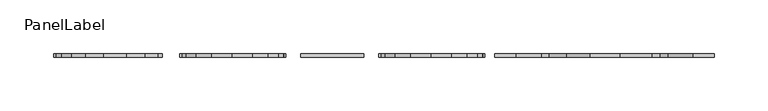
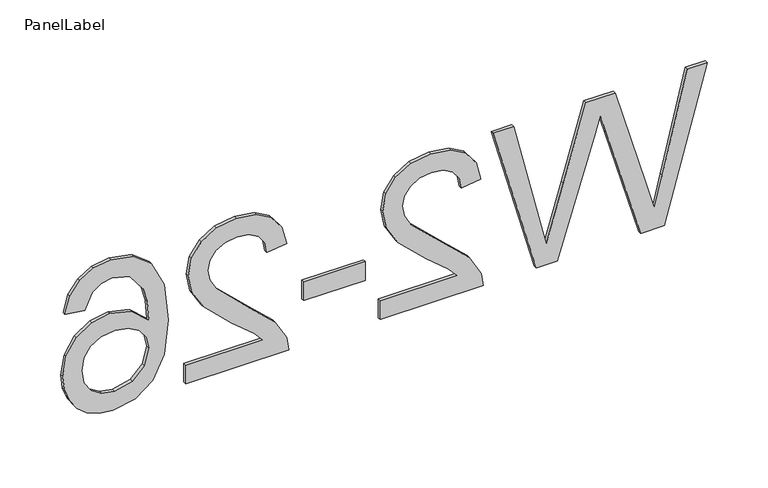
"""IFC4 building model written with IfcOpenShell, lengths in millimetres: fastener geometry, PanelLabel : Miranda."""

from ifc_helpers import new_model, si_unit, frame, origin, place, context, project, spatial, polyline, outline, extrude, source, transform, mapped, element, save


def panellabel_652a8146(model_context):
    return source(origin(), model_context, "Body", "SweptSolid", [
        extrude(outline(polyline([(1310.9113766, 268.5683654), (1460.9667612, 309.4892308), (1460.9667612, 290.1461538), (1362.3463766, 266.4069231), (1331.9030112, 259.08), (1358.8294535, 251.2401923), (1460.9667612, 221.4928846), (1460.9667612, 193.6139423), (1386.9282035, 171.9995192), (1331.9030112, 155.9169231), (1361.4671458, 148.8098077), (1460.9667612, 124.8507692), (1460.9667612, 105.5076923), (1310.9113766, 146.4651923), (1310.9113766, 166.5043269), (1426.6767612, 202.4795192), (1442.8326266, 207.4984615), (1423.3796458, 213.1401923), (1310.9113766, 245.9281731), (1310.9113766, 268.5683654)])), frame((0.0, 100.80625, 0.0), z_axis=(0.0, 1.0, 0.0), x_axis=(0.0, 0.0, 1.0)), (0.0, 0.0, 1.0), 3.175),
        extrude(outline(polyline([(1329.6682997, -2.3446154), (1310.9113766, -2.3446154), (1310.9113766, 96.1292308), (1323.8433958, 94.1143269), (1343.7543093, 82.7209615), (1365.4969535, 59.2381731), (1396.7462804, 26.8531731), (1407.5168573, 20.7809856), (1417.9943573, 18.7569231), (1427.3865569, 20.6665024), (1435.1943093, 26.3952404), (1440.4559559, 35.2012861), (1442.2098381, 46.3427885), (1440.4971698, 58.0429688), (1435.359165, 67.1329327), (1427.1988045, 72.9990505), (1416.4190689, 75.0276923), (1418.7636843, 93.7846154), (1436.9069775, 89.2373438), (1450.1595497, 79.4055288), (1458.2649583, 64.8020553), (1460.9667612, 45.9398077), (1457.9627227, 26.9401803), (1448.9506073, 12.3641827), (1435.4873862, 3.0910457), (1419.1300304, 0.0), (1401.3439247, 3.33375), (1382.9533477, 14.4157212), (1357.254165, 41.2872115), (1339.211617, 62.865), (1329.6682997, 71.3275962), (1329.6682997, -2.3446154)])), frame((0.0, 100.80625, 0.0), z_axis=(0.0, 1.0, 0.0), x_axis=(0.0, 0.0, 1.0)), (0.0, 0.0, 1.0), 3.175),
        extrude(outline(polyline([(-75.0276923, 103.98125), (-16.4123077, 103.98125), (-16.4123077, 100.80625), (-75.0276923, 100.80625), (-75.0276923, 103.98125)])), frame((0.0, 0.0, 1355.4590689), z_axis=(0.0, 0.0, 1.0), x_axis=(1.0, 0.0, 0.0)), (0.0, 0.0, 1.0), 18.7569231),
        extrude(outline(polyline([(1329.6682997, -187.5692308), (1310.9113766, -187.5692308), (1310.9113766, -89.0953846), (1323.8433958, -91.1102885), (1343.7543093, -102.5036538), (1365.4969535, -125.9864423), (1396.7462804, -158.3714423), (1407.5168573, -164.4436298), (1417.9943573, -166.4676923), (1427.3865569, -164.558113), (1435.1943093, -158.829375), (1440.4559559, -150.0233293), (1442.2098381, -138.8818269), (1440.4971698, -127.1816466), (1435.359165, -118.0916827), (1427.1988045, -112.2255649), (1416.4190689, -110.1969231), (1418.7636843, -91.44), (1436.9069775, -95.9872716), (1450.1595497, -105.8190865), (1458.2649583, -120.4225601), (1460.9667612, -139.2848077), (1457.9627227, -158.2844351), (1448.9506073, -172.8604327), (1435.4873862, -182.1335697), (1419.1300304, -185.2246154), (1401.3439247, -181.8908654), (1382.9533477, -170.8088942), (1357.254165, -143.9374038), (1339.211617, -122.3596154), (1329.6682997, -113.8970192), (1329.6682997, -187.5692308)])), frame((0.0, 100.80625, 0.0), z_axis=(0.0, 1.0, 0.0), x_axis=(0.0, 0.0, 1.0)), (0.0, 0.0, 1.0), 3.175),
        extrude(outline(polyline([(1421.1082997, -302.4553846), (1418.7636843, -283.6984615), (1434.406665, -276.5913462), (1440.2590448, -268.0829567), (1442.2098381, -257.7977885), (1437.6671458, -240.8725962), (1420.6137323, -228.0687981), (1406.6422059, -224.1809495), (1387.1846458, -222.7384615), (1402.1498862, -239.2789904), (1407.0406073, -259.7760577), (1403.6976987, -277.1042308), (1393.6689727, -291.6481731), (1378.3465448, -301.5120433), (1359.1225304, -304.8), (1345.6913646, -303.2521875), (1333.2401747, -298.60875), (1322.6802468, -291.254351), (1314.922867, -281.5736538), (1310.1557876, -270.006274), (1308.5667612, -256.9918269), (1312.779742, -235.7116947), (1325.4186843, -218.7636058), (1347.729165, -207.6770553), (1380.9567612, -203.9815385), (1418.3149102, -208.0846154), (1443.8583958, -220.3938462), (1456.6896698, -237.199976), (1460.9667612, -258.9700962), (1458.3199102, -275.4281971), (1450.3793573, -288.6075), (1437.767891, -297.8394231), (1421.1082997, -302.4553846)]), holes=[polyline([(1359.4156073, -222.7384615), (1343.1681554, -227.0796635), (1331.3718093, -238.6195673), (1327.3236843, -255.5264423), (1329.421016, -267.904363), (1335.7130112, -277.6354327), (1345.6043573, -283.9411659), (1358.499742, -286.0430769), (1370.8776626, -283.9686418), (1380.3156554, -277.7453365), (1386.2916771, -267.8494111), (1388.2836843, -254.7571154), (1386.2916771, -242.397512), (1380.3156554, -232.0619712), (1371.106629, -225.0693389), (1359.4156073, -222.7384615)])]), frame((0.0, 100.80625, 0.0), z_axis=(0.0, 1.0, 0.0), x_axis=(0.0, 0.0, 1.0)), (0.0, 0.0, 1.0), 3.175),
    ])


if __name__ == "__main__":
    model = new_model("IFC4")
    model_context = context("Model", 3, world=origin())
    ifc_project = project(units=[si_unit("LENGTHUNIT", "METRE", prefix="MILLI")], contexts=[model_context])
    site = spatial("IfcSite", under=ifc_project)
    building = spatial("IfcBuilding", under=site)
    placement = place(None, origin())
    panellabel_shape = panellabel_652a8146(model_context)
    element("IfcFastener", 1, ObjectType="PanelLabel : Miranda", at=placement, inside=building, context=model_context, shape_type="MappedRepresentation", body=[
        mapped(panellabel_shape, transform((0.0, 0.0, 0.0), x_axis=(1.0, 0.0, 0.0), y_axis=(0.0, 1.0, 0.0), z_axis=(0.0, 0.0, 1.0))),
    ])
    save(model, "model.ifc")
